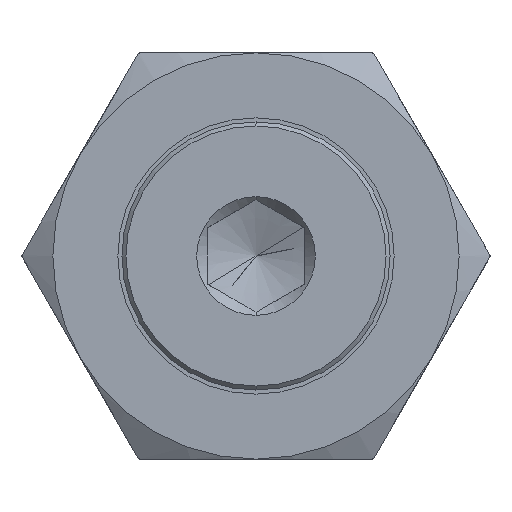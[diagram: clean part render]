
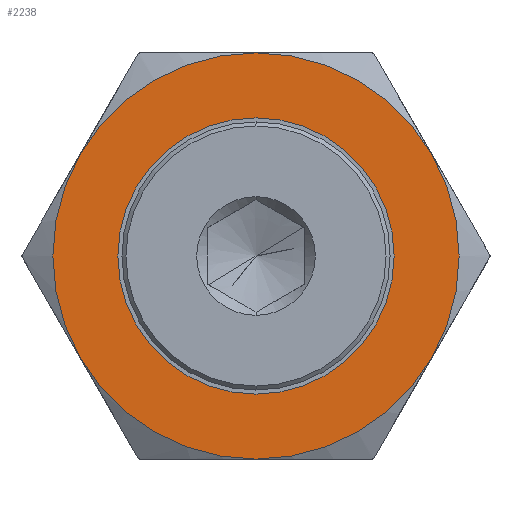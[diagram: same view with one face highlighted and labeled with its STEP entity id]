
A CAD part, left-side view. The second image highlights one B-rep face of the part: STEP entity #2238.
In plain terms, the highlighted planar face has unit normal (-1, 0, 0).
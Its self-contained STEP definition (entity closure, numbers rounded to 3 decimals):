
#199 = CARTESIAN_POINT ( 'NONE',  ( 0., -21.651, 12.5 ) ) ;
#463 = CARTESIAN_POINT ( 'NONE',  ( 0., 0., 0. ) ) ;
#494 = EDGE_CURVE ( 'NONE', #2198, #1070, #9020, .T. ) ;
#512 = CARTESIAN_POINT ( 'NONE',  ( 0., 0., 0. ) ) ;
#605 = VERTEX_POINT ( 'NONE', #8198 ) ;
#758 = EDGE_LOOP ( 'NONE', ( #6530, #1908, #15854, #15668, #13249, #4194 ) ) ;
#819 = EDGE_CURVE ( 'NONE', #3470, #7134, #8246, .T. ) ;
#1070 = VERTEX_POINT ( 'NONE', #9964 ) ;
#1575 = CARTESIAN_POINT ( 'NONE',  ( 0., 0., 0. ) ) ;
#1746 = DIRECTION ( 'NONE',  ( 0., 0., 1. ) ) ;
#1788 = DIRECTION ( 'NONE',  ( 0., 0., 1. ) ) ;
#1847 = DIRECTION ( 'NONE',  ( -1., 0., 0. ) ) ;
#1908 = ORIENTED_EDGE ( 'NONE', *, *, #11077, .T. ) ;
#1994 = AXIS2_PLACEMENT_3D ( 'NONE', #14079, #6635, #15324 ) ;
#2198 = VERTEX_POINT ( 'NONE', #199 ) ;
#2238 = ADVANCED_FACE ( 'NONE', ( #11066, #4823 ), #12742, .T. ) ;
#2461 = CARTESIAN_POINT ( 'NONE',  ( 0., 21.651, 12.5 ) ) ;
#2493 = DIRECTION ( 'NONE',  ( -1., 0., 0. ) ) ;
#2830 = DIRECTION ( 'NONE',  ( 0., 0., 1. ) ) ;
#3046 = CIRCLE ( 'NONE', #12759, 25. ) ;
#3377 = EDGE_LOOP ( 'NONE', ( #13346, #14056 ) ) ;
#3470 = VERTEX_POINT ( 'NONE', #13911 ) ;
#3885 = AXIS2_PLACEMENT_3D ( 'NONE', #1575, #10275, #2830 ) ;
#4194 = ORIENTED_EDGE ( 'NONE', *, *, #494, .T. ) ;
#4582 = DIRECTION ( 'NONE',  ( -1., 0., 0. ) ) ;
#4823 = FACE_BOUND ( 'NONE', #3377, .T. ) ;
#5755 = CARTESIAN_POINT ( 'NONE',  ( 0., 0., 0. ) ) ;
#5842 = CIRCLE ( 'NONE', #1994, 25. ) ;
#5985 = CARTESIAN_POINT ( 'NONE',  ( 0., 0., -17. ) ) ;
#6104 = CARTESIAN_POINT ( 'NONE',  ( 0., 0., 0. ) ) ;
#6157 = EDGE_CURVE ( 'NONE', #15154, #16019, #9077, .T. ) ;
#6530 = ORIENTED_EDGE ( 'NONE', *, *, #8933, .T. ) ;
#6544 = AXIS2_PLACEMENT_3D ( 'NONE', #9338, #1847, #10564 ) ;
#6635 = DIRECTION ( 'NONE',  ( -1., 0., 0. ) ) ;
#7021 = DIRECTION ( 'NONE',  ( 0., 0., 1. ) ) ;
#7134 = VERTEX_POINT ( 'NONE', #12332 ) ;
#7344 = DIRECTION ( 'NONE',  ( 0., 0., 1. ) ) ;
#8198 = CARTESIAN_POINT ( 'NONE',  ( 0., -21.651, -12.5 ) ) ;
#8246 = CIRCLE ( 'NONE', #14595, 25. ) ;
#8933 = EDGE_CURVE ( 'NONE', #1070, #15360, #14517, .T. ) ;
#9020 = CIRCLE ( 'NONE', #6544, 25. ) ;
#9077 = CIRCLE ( 'NONE', #9749, 17. ) ;
#9082 = EDGE_CURVE ( 'NONE', #7134, #605, #5842, .T. ) ;
#9136 = CARTESIAN_POINT ( 'NONE',  ( 0., 0., 17. ) ) ;
#9156 = EDGE_CURVE ( 'NONE', #605, #2198, #10486, .T. ) ;
#9221 = DIRECTION ( 'NONE',  ( -1., 0., 0. ) ) ;
#9261 = DIRECTION ( 'NONE',  ( -1., 0., 0. ) ) ;
#9338 = CARTESIAN_POINT ( 'NONE',  ( 0., 0., 0. ) ) ;
#9535 = AXIS2_PLACEMENT_3D ( 'NONE', #512, #9261, #1788 ) ;
#9749 = AXIS2_PLACEMENT_3D ( 'NONE', #5755, #14462, #7021 ) ;
#9964 = CARTESIAN_POINT ( 'NONE',  ( 0., 0., 25. ) ) ;
#9968 = CARTESIAN_POINT ( 'NONE',  ( 0., 0., 0. ) ) ;
#10275 = DIRECTION ( 'NONE',  ( -1., 0., 0. ) ) ;
#10486 = CIRCLE ( 'NONE', #9535, 25. ) ;
#10564 = DIRECTION ( 'NONE',  ( 0., 0., 1. ) ) ;
#11066 = FACE_OUTER_BOUND ( 'NONE', #758, .T. ) ;
#11077 = EDGE_CURVE ( 'NONE', #15360, #3470, #3046, .T. ) ;
#11214 = DIRECTION ( 'NONE',  ( 0., 0., 1. ) ) ;
#11320 = CIRCLE ( 'NONE', #15838, 17. ) ;
#12053 = CARTESIAN_POINT ( 'NONE',  ( 0., 0., 0. ) ) ;
#12332 = CARTESIAN_POINT ( 'NONE',  ( 0., 0., -25. ) ) ;
#12728 = EDGE_CURVE ( 'NONE', #16019, #15154, #11320, .T. ) ;
#12742 = PLANE ( 'NONE',  #3885 ) ;
#12759 = AXIS2_PLACEMENT_3D ( 'NONE', #12053, #4582, #13299 ) ;
#13249 = ORIENTED_EDGE ( 'NONE', *, *, #9156, .T. ) ;
#13299 = DIRECTION ( 'NONE',  ( 0., 0., 1. ) ) ;
#13346 = ORIENTED_EDGE ( 'NONE', *, *, #6157, .F. ) ;
#13460 = AXIS2_PLACEMENT_3D ( 'NONE', #6104, #14800, #7344 ) ;
#13911 = CARTESIAN_POINT ( 'NONE',  ( 0., 21.651, -12.5 ) ) ;
#14056 = ORIENTED_EDGE ( 'NONE', *, *, #12728, .F. ) ;
#14079 = CARTESIAN_POINT ( 'NONE',  ( 0., 0., 0. ) ) ;
#14462 = DIRECTION ( 'NONE',  ( -1., 0., 0. ) ) ;
#14517 = CIRCLE ( 'NONE', #13460, 25. ) ;
#14595 = AXIS2_PLACEMENT_3D ( 'NONE', #463, #9221, #1746 ) ;
#14800 = DIRECTION ( 'NONE',  ( -1., 0., 0. ) ) ;
#15154 = VERTEX_POINT ( 'NONE', #9136 ) ;
#15324 = DIRECTION ( 'NONE',  ( 0., 0., 1. ) ) ;
#15360 = VERTEX_POINT ( 'NONE', #2461 ) ;
#15668 = ORIENTED_EDGE ( 'NONE', *, *, #9082, .T. ) ;
#15838 = AXIS2_PLACEMENT_3D ( 'NONE', #9968, #2493, #11214 ) ;
#15854 = ORIENTED_EDGE ( 'NONE', *, *, #819, .T. ) ;
#16019 = VERTEX_POINT ( 'NONE', #5985 ) ;
